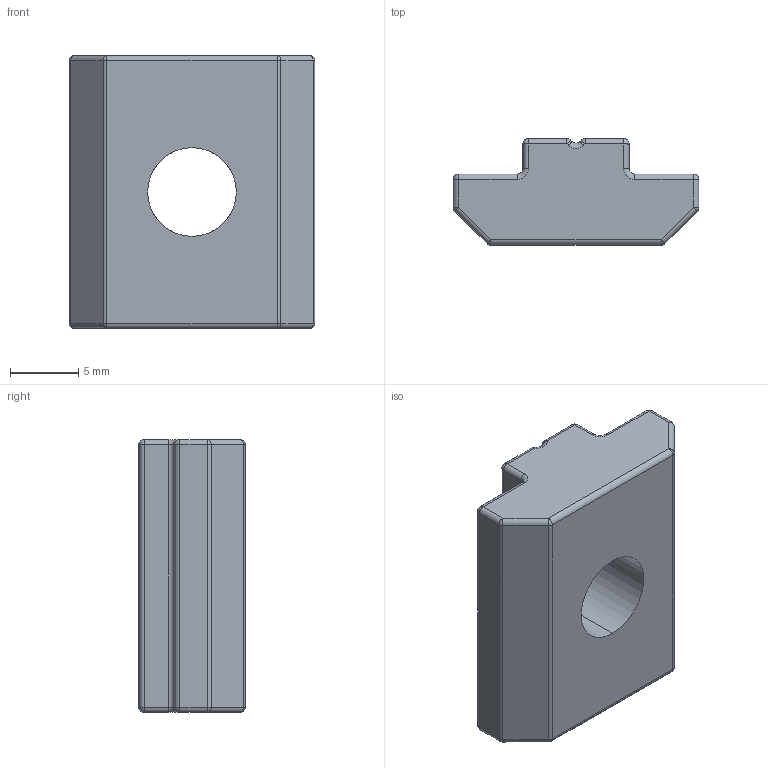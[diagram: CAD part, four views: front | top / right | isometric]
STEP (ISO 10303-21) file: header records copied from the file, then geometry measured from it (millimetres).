
FILE_DESCRIPTION (( 'STEP AP203' ), '1' );
FILE_NAME ('5071.STEP', '2016-04-22T17:01:15', ( '' ), ( '' ), 'SwSTEP 2.0', 'SolidWorks 2014', '' );
FILE_SCHEMA (( 'CONFIG_CONTROL_DESIGN' ));
Length unit declared in the file: millimetre
Products named in the file (1): 5071
Bounding box: 18 x 7.8 x 20 mm (x, y, z)
Volume: 1875.7 mm3; surface area: 1241.5 mm2
Topology: 1 solids, 1 shells, 87 faces, 202 edges, 100 vertices
Faces by surface type: cylinder 44, sphere 20, plane 17, torus 6
Entity records: 2381 total; most frequent: DIRECTION 438, CARTESIAN_POINT 410, ORIENTED_EDGE 372, EDGE_CURVE 186, AXIS2_PLACEMENT_3D 176, VERTEX_POINT 100, CIRCLE 88, EDGE_LOOP 88
